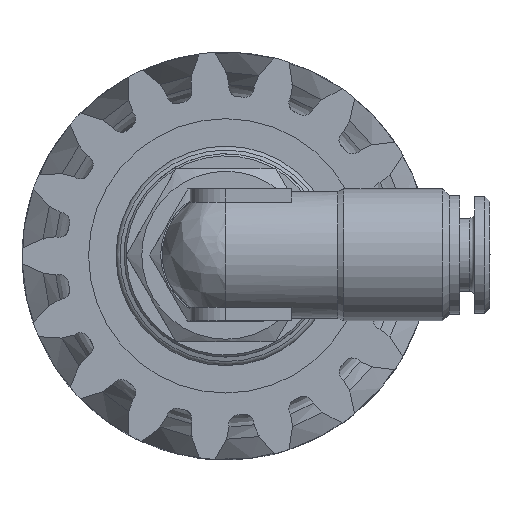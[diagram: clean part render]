
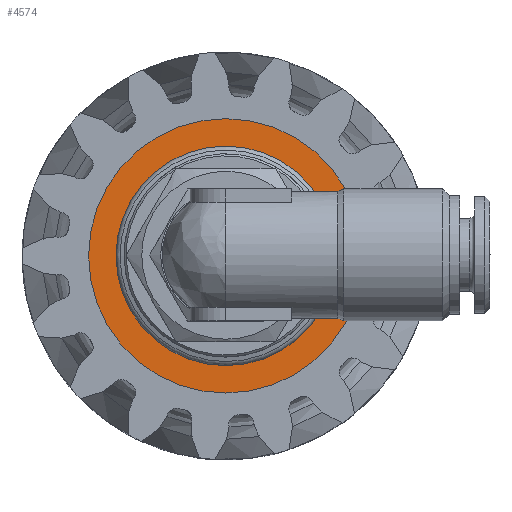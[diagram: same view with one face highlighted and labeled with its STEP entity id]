
A CAD part, top view. The second image highlights one B-rep face of the part: STEP entity #4574.
In plain terms, the highlighted planar face has unit normal (0, 0, 1) as drawn and (0, 1, 0) by its records, which use the part's own axes.
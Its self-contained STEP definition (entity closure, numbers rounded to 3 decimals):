
#1174 = CARTESIAN_POINT ( 'NONE',  ( 0., 0.6, 10.8 ) ) ;
#4574 = ADVANCED_FACE ( 'NONE', ( #7648, #49743 ), #36962, .F. ) ;
#5644 = DIRECTION ( 'NONE',  ( 0., 1., 0. ) ) ;
#7648 = FACE_BOUND ( 'NONE', #23988, .T. ) ;
#8398 = AXIS2_PLACEMENT_3D ( 'NONE', #23675, #10799, #14730 ) ;
#10799 = DIRECTION ( 'NONE',  ( 0., 1., 0. ) ) ;
#10921 = VERTEX_POINT ( 'NONE', #45220 ) ;
#11892 = EDGE_LOOP ( 'NONE', ( #47221 ) ) ;
#14730 = DIRECTION ( 'NONE',  ( 0., 0., 1. ) ) ;
#16068 = DIRECTION ( 'NONE',  ( 0., 0., -1. ) ) ;
#23675 = CARTESIAN_POINT ( 'NONE',  ( 0., 0.6, 0. ) ) ;
#23988 = EDGE_LOOP ( 'NONE', ( #39620 ) ) ;
#25370 = CIRCLE ( 'NONE', #8398, 10.8 ) ;
#27784 = DIRECTION ( 'NONE',  ( 0., -1., 0. ) ) ;
#28407 = AXIS2_PLACEMENT_3D ( 'NONE', #43863, #5644, #39951 ) ;
#28607 = CARTESIAN_POINT ( 'NONE',  ( 13.5, 0.6, 0. ) ) ;
#36962 = PLANE ( 'NONE',  #43398 ) ;
#39404 = VERTEX_POINT ( 'NONE', #1174 ) ;
#39620 = ORIENTED_EDGE ( 'NONE', *, *, #40932, .F. ) ;
#39916 = CIRCLE ( 'NONE', #28407, 13.5 ) ;
#39951 = DIRECTION ( 'NONE',  ( 0., 0., 1. ) ) ;
#40932 = EDGE_CURVE ( 'NONE', #39404, #39404, #25370, .T. ) ;
#43398 = AXIS2_PLACEMENT_3D ( 'NONE', #28607, #27784, #16068 ) ;
#43755 = EDGE_CURVE ( 'NONE', #10921, #10921, #39916, .T. ) ;
#43863 = CARTESIAN_POINT ( 'NONE',  ( 0., 0.6, 0. ) ) ;
#45220 = CARTESIAN_POINT ( 'NONE',  ( 0., 0.6, 13.5 ) ) ;
#47221 = ORIENTED_EDGE ( 'NONE', *, *, #43755, .T. ) ;
#49743 = FACE_OUTER_BOUND ( 'NONE', #11892, .T. ) ;
